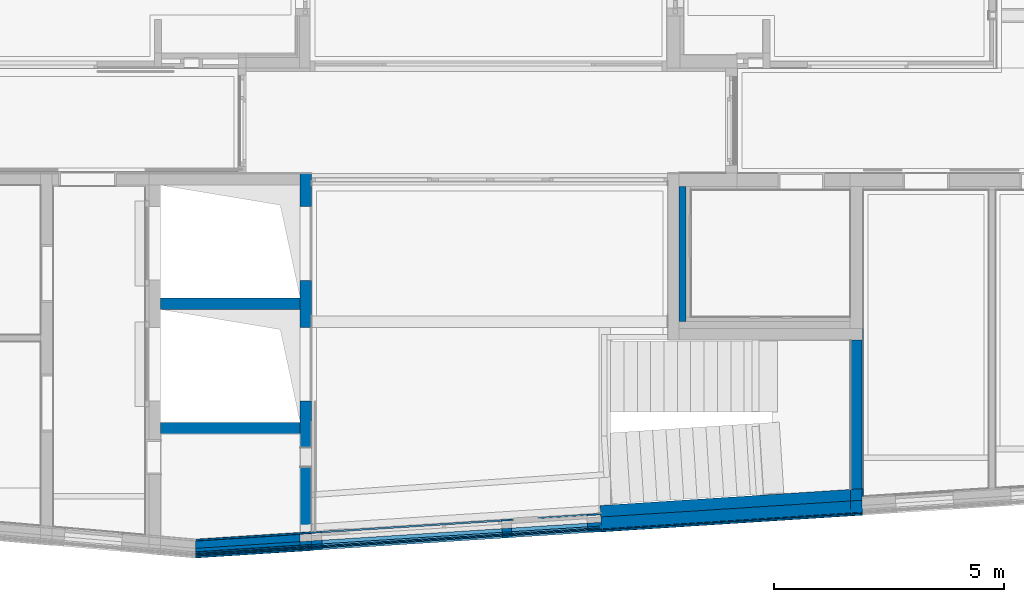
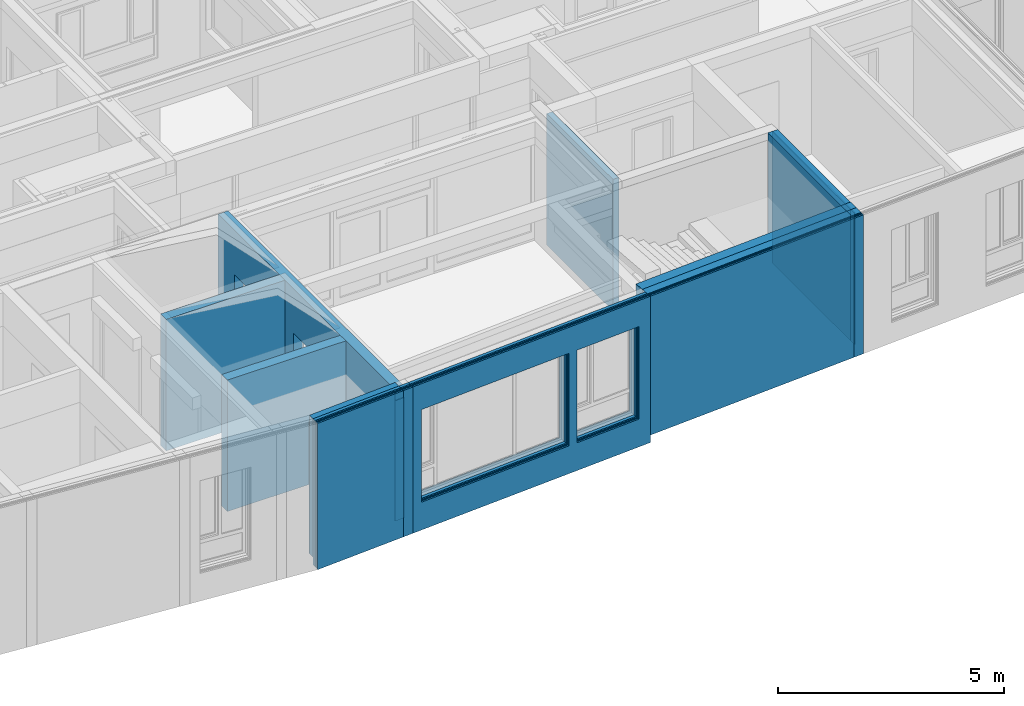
# One storey, part 24 of 222: 38 walls, 15 openings.
"""IFC4 building model written with IfcOpenShell, lengths in metres."""

from ifc_helpers import new_model, entity, si_unit, converted_unit, derived_unit, frame, frame_2d, origin, origin_with_axes, place, context, subcontext, project, spatial, polyline, rectangle, outline, extrude, clip, bounded_halfspace, material, element, save


model = new_model("IFC4")

# Units and contexts
model_context = context("Model", 3, precision=1e-05, world=origin())
body_context = subcontext(model_context, "Body", "Model", "MODEL_VIEW")
ifc_project = project(units=[si_unit("LENGTHUNIT", "METRE"), si_unit("AREAUNIT", "SQUARE_METRE"), si_unit("VOLUMEUNIT", "CUBIC_METRE"), si_unit("MASSUNIT", "GRAM", prefix="KILO"), converted_unit("PLANEANGLEUNIT", "DEGREE", entity("IfcPlaneAngleMeasure", 0.0174532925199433), si_unit("PLANEANGLEUNIT", "RADIAN"), dimensions=[0, 0, 0, 0, 0, 0, 0]), derived_unit("THERMALTRANSMITTANCEUNIT", [(si_unit("POWERUNIT", "WATT"), 1), (si_unit("THERMODYNAMICTEMPERATUREUNIT", "KELVIN"), -1), (si_unit("LENGTHUNIT", "METRE"), -2)]), derived_unit("VOLUMETRICFLOWRATEUNIT", [(si_unit("LENGTHUNIT", "METRE"), 3), (converted_unit("TIMEUNIT", "hour", entity("IfcTimeMeasure", 3600.0), si_unit("TIMEUNIT", "SECOND"), dimensions=[0, 0, 1, 0, 0, 0, 0]), -1), (si_unit("LENGTHUNIT", "METRE"), -1)])], contexts=[model_context])

# Site, building, storey
site_placement = place(None, origin())
site = spatial("IfcSite", under=ifc_project, at=site_placement, Name="Psychiatrie Neubau Wunstorf", CompositionType="ELEMENT")
building_placement = place(site_placement, origin())
building = spatial("IfcBuilding", under=site, at=building_placement, Name="Neubau H2 Stationsgebäude", CompositionType="ELEMENT")
storey_placement = place(building_placement, frame((0.0, 0.0, 3.6)))
storey = spatial("IfcBuildingStorey", under=building, at=storey_placement, Name="H2 Ebene +1", CompositionType="ELEMENT", Elevation=3.6)

# Walls
ifc_material_1 = material(Name="WA-STB")
wall_1_placement = place(storey_placement, frame((62.249793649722, -6.33037734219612, 0.0), z_axis=(0.0, 0.0, 1.0), x_axis=(-0.997944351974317, -0.0640864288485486, 0.0)))
element("IfcWall", 1, at=wall_1_placement, inside=storey, material=ifc_material_1, context=body_context, shape_type="SweptSolid", body=[
    extrude(outline(polyline([(-5.46534169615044, -0.248974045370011), (-0.0159887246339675, -0.248974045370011), (-0.0159760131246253, 0.00102595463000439), (-5.44928708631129, 0.00102595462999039), (-5.46534169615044, -0.248974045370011)])), frame((5.46534169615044, 0.248974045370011, 0.0), z_axis=(0.0, 0.0, 1.0), x_axis=(1.0, 0.0, 0.0)), (0.0, 0.0, 1.0), 3.75),
])
ifc_material_2 = material(Name="WA-DL")
wall_2_placement = place(storey_placement, frame((62.249793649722, -6.58089231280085, 0.0), z_axis=(0.0, 0.0, 1.0), x_axis=(-0.997944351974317, -0.0640864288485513, 0.0)))
element("IfcWall", 2, at=wall_2_placement, inside=storey, material=ifc_material_2, context=body_context, shape_type="SweptSolid", body=[
    extrude(outline(polyline([(-5.44674160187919, -0.209138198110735), (-0.0134305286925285, -0.209138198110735), (-0.0134198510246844, 0.000861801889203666), (-5.4332557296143, 0.000861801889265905), (-5.44674160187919, -0.209138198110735)])), frame((5.44674160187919, 0.209138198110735, 0.0), z_axis=(0.0, 0.0, 1.0), x_axis=(1.0, 0.0, 0.0)), (0.0, 0.0, 1.0), 3.75),
])
ifc_material_3 = material(Name="WA-LB")
wall_3_placement = place(storey_placement, frame((62.249793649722, -6.79132488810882, 0.0), z_axis=(0.0, 0.0, 1.0), x_axis=(-0.997944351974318, -0.0640864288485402, 0.0)))
element("IfcWall", 3, at=wall_3_placement, inside=storey, material=ifc_material_3, context=body_context, shape_type="SweptSolid", body=[
    extrude(outline(polyline([(-5.42117893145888, -0.0209138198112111), (-0.00134305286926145, -0.0209138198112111), (-0.00134198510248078, 8.61801889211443e-05), (-5.41983034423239, 8.61801887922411e-05), (-5.42117893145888, -0.0209138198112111)])), frame((5.42117893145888, 0.0209138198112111, 0.0), z_axis=(0.0, 0.0, 1.0), x_axis=(1.0, 0.0, 0.0)), (0.0, 0.0, 1.0), 3.75),
])
ifc_material_4 = material(Name="WA-KL")
wall_4_placement = place(storey_placement, frame((62.249793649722, -6.81236814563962, 0.0), z_axis=(0.0, 0.0, 1.0), x_axis=(-0.997944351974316, -0.0640864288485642, 0.0)))
element("IfcWall", 4, at=wall_4_placement, inside=storey, material=ifc_material_4, context=body_context, shape_type="SweptSolid", body=[
    extrude(outline(polyline([(-5.42002327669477, -0.0239015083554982), (-0.00153491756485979, -0.0239015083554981), (-0.00153369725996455, 9.84916444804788e-05), (-5.41848203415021, 9.84916445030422e-05), (-5.42002327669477, -0.0239015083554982)])), frame((5.42002327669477, 0.0239015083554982, 0.0), z_axis=(0.0, 0.0, 1.0), x_axis=(1.0, 0.0, 0.0)), (0.0, 0.0, 1.0), 3.75),
])
ifc_material_5 = material(Name="WA-TL")
wall_5_placement = place(storey_placement, frame((62.249793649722, -6.83641758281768, 0.0), z_axis=(0.0, 0.0, 1.0), x_axis=(-0.997944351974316, -0.0640864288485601, 0.0)))
element("IfcWall", 5, at=wall_5_placement, inside=storey, material=ifc_material_5, context=body_context, shape_type="SweptSolid", body=[
    extrude(outline(polyline([(-5.4184832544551, -0.0239015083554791), (-0.00153491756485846, -0.0239015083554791), (-0.00153369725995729, 9.84916444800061e-05), (-5.41694201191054, 9.84916445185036e-05), (-5.4184832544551, -0.0239015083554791)])), frame((5.4184832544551, 0.0239015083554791, 0.0), z_axis=(0.0, 0.0, 1.0), x_axis=(1.0, 0.0, 0.0)), (0.0, 0.0, 1.0), 3.75),
])
ifc_material_6 = material(Name="WA-HS")
wall_6_placement = place(storey_placement, frame((62.249793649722, -6.86046701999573, 0.0), z_axis=(0.0, 0.0, 1.0), x_axis=(-0.997944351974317, -0.064086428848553, 0.0)))
element("IfcWall", 6, at=wall_6_placement, inside=storey, material=ifc_material_6, context=body_context, shape_type="SweptSolid", body=[
    extrude(outline(polyline([(-5.41809442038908, -0.0418276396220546), (-0.00268610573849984, -0.0418276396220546), (-0.00268397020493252, 0.000172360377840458), (-5.4153972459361, 0.000172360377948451), (-5.41809442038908, -0.0418276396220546)])), frame((5.41809442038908, 0.0418276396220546, 0.0), z_axis=(0.0, 0.0, 1.0), x_axis=(1.0, 0.0, 0.0)), (0.0, 0.0, 1.0), 3.75),
])
ifc_material_7 = material(Name="WA-STB")
wall_7_placement = place(storey_placement, frame((62.499793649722, -6.31449858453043, 0.0), z_axis=(0.0, 0.0, 1.0), x_axis=(-0.997944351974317, -0.0640864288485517, 0.0)))
element("IfcWall", 7, at=wall_7_placement, inside=storey, material=ifc_material_7, context=body_context, shape_type="SweptSolid", body=[
    extrude(outline(polyline([(-0.266569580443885, -0.25), (-0.0160546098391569, -0.25), (0.0, 0.0), (-0.250514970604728, 0.0), (-0.266569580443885, -0.25)])), frame((0.266569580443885, 0.25, 0.0), z_axis=(0.0, 0.0, 1.0), x_axis=(1.0, 0.0, 0.0)), (0.0, 0.0, 1.0), 3.75),
])
ifc_material_8 = material(Name="WA-DL")
wall_8_placement = place(storey_placement, frame((62.499793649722, -6.56501355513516, 0.0), z_axis=(0.0, 0.0, 1.0), x_axis=(-0.997944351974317, -0.0640864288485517, 0.0)))
element("IfcWall", 8, at=wall_8_placement, inside=storey, material=ifc_material_8, context=body_context, shape_type="SweptSolid", body=[
    extrude(outline(polyline([(-0.264000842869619, -0.209999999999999), (-0.0134858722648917, -0.209999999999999), (0.0, 0.0), (-0.250514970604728, 0.0), (-0.264000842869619, -0.209999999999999)])), frame((0.264000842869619, 0.209999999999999, 0.0), z_axis=(0.0, 0.0, 1.0), x_axis=(1.0, 0.0, 0.0)), (0.0, 0.0, 1.0), 3.75),
])
ifc_material_9 = material(Name="WA-LB")
wall_9_placement = place(storey_placement, frame((62.499793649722, -6.77544613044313, 0.0), z_axis=(0.0, 0.0, 1.0), x_axis=(-0.997944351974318, -0.0640864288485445, 0.0)))
element("IfcWall", 9, at=wall_9_placement, inside=storey, material=ifc_material_9, context=body_context, shape_type="SweptSolid", body=[
    extrude(outline(polyline([(-0.251863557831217, -0.0210000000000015), (-0.00134858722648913, -0.0210000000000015), (0.0, 0.0), (-0.250514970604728, 0.0), (-0.251863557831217, -0.0210000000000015)])), frame((0.251863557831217, 0.0210000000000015, 0.0), z_axis=(0.0, 0.0, 1.0), x_axis=(1.0, 0.0, 0.0)), (0.0, 0.0, 1.0), 3.75),
])
ifc_material_10 = material(Name="WA-KL")
wall_10_placement = place(storey_placement, frame((62.499793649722, -6.79648938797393, 0.0), z_axis=(0.0, 0.0, 1.0), x_axis=(-0.997944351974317, -0.0640864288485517, 0.0)))
element("IfcWall", 10, at=wall_10_placement, inside=storey, material=ifc_material_10, context=body_context, shape_type="SweptSolid", body=[
    extrude(outline(polyline([(-0.252056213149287, -0.0240000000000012), (-0.00154124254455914, -0.0240000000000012), (0.0, 0.0), (-0.250514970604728, 0.0), (-0.252056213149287, -0.0240000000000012)])), frame((0.252056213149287, 0.0240000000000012, 0.0), z_axis=(0.0, 0.0, 1.0), x_axis=(1.0, 0.0, 0.0)), (0.0, 0.0, 1.0), 3.75),
])
ifc_material_11 = material(Name="WA-TL")
wall_11_placement = place(storey_placement, frame((62.499793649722, -6.82053882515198, 0.0), z_axis=(0.0, 0.0, 1.0), x_axis=(-0.997944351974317, -0.0640864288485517, 0.0)))
element("IfcWall", 11, at=wall_11_placement, inside=storey, material=ifc_material_11, context=body_context, shape_type="SweptSolid", body=[
    extrude(outline(polyline([(-0.252056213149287, -0.0239999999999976), (-0.00154124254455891, -0.0239999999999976), (0.0, 0.0), (-0.250514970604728, 0.0), (-0.252056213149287, -0.0239999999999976)])), frame((0.252056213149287, 0.0239999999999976, 0.0), z_axis=(0.0, 0.0, 1.0), x_axis=(1.0, 0.0, 0.0)), (0.0, 0.0, 1.0), 3.75),
])
ifc_material_12 = material(Name="WA-HS")
wall_12_placement = place(storey_placement, frame((62.499793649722, -6.84458826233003, 0.0), z_axis=(0.0, 0.0, 1.0), x_axis=(-0.997944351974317, -0.0640864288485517, 0.0)))
element("IfcWall", 12, at=wall_12_placement, inside=storey, material=ifc_material_12, context=body_context, shape_type="SweptSolid", body=[
    extrude(outline(polyline([(-0.253212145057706, -0.0419999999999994), (-0.00269717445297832, -0.0419999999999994), (0.0, 0.0), (-0.250514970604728, 0.0), (-0.253212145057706, -0.0419999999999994)])), frame((0.253212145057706, 0.0419999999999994, 0.0), z_axis=(0.0, 0.0, 1.0), x_axis=(1.0, 0.0, 0.0)), (0.0, 0.0, 1.0), 3.75),
])
ifc_material_13 = material(Name="WA-LB")
wall_13_placement = place(storey_placement, frame((50.3000000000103, -7.26712256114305, 0.0), z_axis=(0.0, 0.0, 1.0), x_axis=(-0.997944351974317, -0.0640864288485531, 0.0)))
element("IfcWall", 13, at=wall_13_placement, inside=storey, material=ifc_material_13, context=body_context, shape_type="SweptSolid", body=[
    extrude(outline(polyline([(-2.27676656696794, -0.0360000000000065), (-0.00273481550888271, -0.0360000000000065), (0.0, 0.0), (-2.2744547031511, 0.0), (-2.27676656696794, -0.0360000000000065)])), frame((2.27676656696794, 0.0360000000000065, 0.0), z_axis=(0.0, 0.0, 1.0), x_axis=(1.0, 0.0, 0.0)), (0.0, 0.0, 1.0), 3.55),
])
ifc_material_14 = material(Name="WA-HD")
wall_14_placement = place(storey_placement, frame((50.3000000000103, -7.30319671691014, 0.0), z_axis=(0.0, 0.0, 1.0), x_axis=(-0.997944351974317, -0.0640864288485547, 0.0)))
element("IfcWall", 14, at=wall_14_placement, inside=storey, material=ifc_material_14, context=body_context, shape_type="SweptSolid", body=[
    extrude(outline(polyline([(-2.28660943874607, -0.159999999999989), (-0.0121547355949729, -0.159999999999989), (0.0, 0.0), (-2.27633448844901, 0.0), (-2.28660943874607, -0.159999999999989)])), frame((2.28660943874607, 0.159999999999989, 0.0), z_axis=(0.0, 0.0, 1.0), x_axis=(1.0, 0.0, 0.0)), (0.0, 0.0, 1.0), 3.75),
])
ifc_material_15 = material(Name="WA-DL")
wall_15_placement = place(storey_placement, frame((50.3000000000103, -7.46352629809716, -0.2), z_axis=(0.0, 0.0, 1.0), x_axis=(-0.997944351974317, -0.064086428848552, 0.0)))
element("IfcWall", 15, at=wall_15_placement, inside=storey, material=ifc_material_15, context=body_context, shape_type="SweptSolid", body=[
    extrude(outline(polyline([(-2.28241185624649, -0.0800000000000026), (-0.00607736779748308, -0.0800000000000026), (0.0, 0.0), (-2.27727438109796, 0.0), (-2.28241185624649, -0.0800000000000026)])), frame((2.28241185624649, 0.0800000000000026, 0.0), z_axis=(0.0, 0.0, 1.0), x_axis=(1.0, 0.0, 0.0)), (0.0, 0.0, 1.0), 3.95),
])
ifc_material_16 = material(Name="WA-LB")
wall_16_placement = place(storey_placement, frame((50.3000000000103, -7.54369108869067, -0.2), z_axis=(0.0, 0.0, 1.0), x_axis=(-0.997944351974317, -0.064086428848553, 0.0)))
element("IfcWall", 16, at=wall_16_placement, inside=storey, material=ifc_material_16, context=body_context, shape_type="SweptSolid", body=[
    extrude(outline(polyline([(-2.28000919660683, -0.0359999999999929), (-0.00273481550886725, -0.0359999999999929), (0.0, 0.0), (-2.27769733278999, 0.0), (-2.28000919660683, -0.0359999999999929)])), frame((2.28000919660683, 0.0359999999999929, 0.0), z_axis=(0.0, 0.0, 1.0), x_axis=(1.0, 0.0, 0.0)), (0.0, 0.0, 1.0), 3.95),
])
ifc_material_17 = material(Name="WA-KL")
wall_17_placement = place(storey_placement, frame((50.3000000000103, -7.57976524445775, -0.2), z_axis=(0.0, 0.0, 1.0), x_axis=(-0.997944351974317, -0.0640864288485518, 0.0)))
element("IfcWall", 17, at=wall_17_placement, inside=storey, material=ifc_material_17, context=body_context, shape_type="SweptSolid", body=[
    extrude(outline(polyline([(-2.27952054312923, -0.024000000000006), (-0.00182321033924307, -0.024000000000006), (0.0, 0.0), (-2.27797930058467, 0.0), (-2.27952054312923, -0.024000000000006)])), frame((2.27952054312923, 0.024000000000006, 0.0), z_axis=(0.0, 0.0, 1.0), x_axis=(1.0, 0.0, 0.0)), (0.0, 0.0, 1.0), 3.95),
])
ifc_material_18 = material(Name="WA-TL")
wall_18_placement = place(storey_placement, frame((50.3000000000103, -7.6038146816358, -0.2), z_axis=(0.0, 0.0, 1.0), x_axis=(-0.997944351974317, -0.0640864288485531, 0.0)))
element("IfcWall", 18, at=wall_18_placement, inside=storey, material=ifc_material_18, context=body_context, shape_type="SweptSolid", body=[
    extrude(outline(polyline([(-2.27980251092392, -0.0239999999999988), (-0.00182321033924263, -0.0239999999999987), (0.0, 0.0), (-2.27826126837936, 0.0), (-2.27980251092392, -0.0239999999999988)])), frame((2.27980251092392, 0.0239999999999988, 0.0), z_axis=(0.0, 0.0, 1.0), x_axis=(1.0, 0.0, 0.0)), (0.0, 0.0, 1.0), 3.95),
])
ifc_material_19 = material(Name="WA-HS")
wall_19_placement = place(storey_placement, frame((50.3000000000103, -7.62786411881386, -0.2), z_axis=(0.0, 0.0, 1.0), x_axis=(-0.997944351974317, -0.0640864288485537, 0.0)))
element("IfcWall", 19, at=wall_19_placement, inside=storey, material=ifc_material_19, context=body_context, shape_type="SweptSolid", body=[
    extrude(outline(polyline([(-2.28145188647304, -0.0420000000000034), (-0.00319061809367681, -0.0420000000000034), (0.0, 0.0), (-2.27875471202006, 0.0), (-2.28145188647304, -0.0420000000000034)])), frame((2.28145188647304, 0.0420000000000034, 0.0), z_axis=(0.0, 0.0, 1.0), x_axis=(1.0, 0.0, 0.0)), (0.0, 0.0, 1.0), 3.95),
])

# Wall, openings
ifc_material_20 = material(Name="WA-LB")
wall_20_placement = place(storey_placement, frame((56.822464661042, -6.84826005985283, 0.0), z_axis=(0.0, 0.0, 1.0), x_axis=(-0.997944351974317, -0.0640864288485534, 0.0)))
wall_20 = element("IfcWall", 20, at=wall_20_placement, inside=storey, material=ifc_material_20, context=body_context, shape_type="SweptSolid", body=[
    extrude(outline(polyline([(-6.28769706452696, -0.0360000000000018), (-0.00231186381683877, -0.0360000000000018), (0.0, 0.0), (-6.28769523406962, 0.0), (-6.28769706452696, -0.0360000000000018)])), frame((6.28769706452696, 0.0360000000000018, 0.0), z_axis=(0.0, 0.0, 1.0), x_axis=(1.0, 0.0, 0.0)), (0.0, 0.0, 1.0), 3.25),
])
opening_1_placement = place(wall_20_placement, frame((1.94960291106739, 0.0359999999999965, 0.55), z_axis=(-5.68434188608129e-14, -1.0, 0.0), x_axis=(0.0, 0.0, 1.0)))
element("IfcOpeningElement", 21, at=opening_1_placement, cuts=wall_20, Name="Fensteröffnung", ObjectType="Opening", context=body_context, shape_type="SweptSolid", body=[
    extrude(outline(polyline([(2.5, 1.64999999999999), (2.5, 0.0), (0.0, 0.0), (0.0, 1.64999999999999), (2.5, 1.64999999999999)])), origin_with_axes(), (0.0, 0.0, 1.0), 0.0359999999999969),
])
opening_2_placement = place(wall_20_placement, frame((2.15538520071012, 0.0, 0.55), z_axis=(6.31593542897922e-14, 1.0, 0.0), x_axis=(0.0, 0.0, 1.0)))
element("IfcOpeningElement", 22, at=opening_2_placement, cuts=wall_20, Name="Fensteröffnung", ObjectType="Opening", context=body_context, shape_type="SweptSolid", body=[
    extrude(outline(polyline([(2.5, 3.92257788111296), (2.5, 0.0), (0.0, 0.0), (0.0, 3.92257788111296), (2.5, 3.92257788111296)])), origin_with_axes(), (0.0, 0.0, 1.0), 0.0359999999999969),
])

ifc_material_21 = material(Name="WA-DL")
wall_21_placement = place(storey_placement, frame((56.8350156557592, -7.04385779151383, -0.2), z_axis=(0.0, 0.0, 1.0), x_axis=(-0.997944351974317, -0.0640864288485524, 0.0)))
wall_21 = element("IfcWall", 23, at=wall_21_placement, inside=storey, material=ifc_material_21, context=body_context, shape_type="SweptSolid", body=[
    extrude(outline(polyline([(-6.30309952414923, -0.0800000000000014), (-0.00513747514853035, -0.0800000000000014), (0.0, 0.0), (-6.30309545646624, 0.0), (-6.30309952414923, -0.0800000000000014)])), frame((6.30309952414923, 0.0800000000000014, 0.0), z_axis=(0.0, 0.0, 1.0), x_axis=(1.0, 0.0, 0.0)), (0.0, 0.0, 1.0), 3.95),
])
opening_3_placement = place(wall_21_placement, frame((1.94959294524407, 0.0799999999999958, 0.75), z_axis=(-1.98951966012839e-14, -1.0, 0.0), x_axis=(0.0, 0.0, 1.0)))
element("IfcOpeningElement", 24, at=opening_3_placement, cuts=wall_21, Name="Fensteröffnung", ObjectType="Opening", context=body_context, shape_type="SweptSolid", body=[
    extrude(outline(polyline([(2.5, 1.64999999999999), (2.5, 0.0), (0.0, 0.0), (0.0, 1.64999999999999), (2.5, 1.64999999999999)])), origin_with_axes(), (0.0, 0.0, 1.0), 0.0799999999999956),
])
opening_4_placement = place(wall_21_placement, frame((2.15537523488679, 0.0, 0.75), z_axis=(2.27373675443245e-14, 1.0, 0.0), x_axis=(0.0, 0.0, 1.0)))
element("IfcOpeningElement", 25, at=opening_4_placement, cuts=wall_21, Name="Fensteröffnung", ObjectType="Opening", context=body_context, shape_type="SweptSolid", body=[
    extrude(outline(polyline([(2.5, 3.92257788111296), (2.5, 0.0), (0.0, 0.0), (0.0, 3.92257788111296), (2.5, 3.92257788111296)])), origin_with_axes(), (0.0, 0.0, 1.0), 0.0799999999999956),
])

ifc_material_22 = material(Name="WA-LB")
wall_22_placement = place(storey_placement, frame((56.8401385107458, -7.12369360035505, -0.2), z_axis=(0.0, 0.0, 1.0), x_axis=(-0.997944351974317, -0.0640864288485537, 0.0)))
wall_22 = element("IfcWall", 26, at=wall_22_placement, inside=storey, material=ifc_material_22, context=body_context, shape_type="SweptSolid", body=[
    extrude(outline(polyline([(-6.30540732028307, -0.0359999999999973), (-0.00231186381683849, -0.0359999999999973), (0.0, 0.0), (-6.30540548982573, 0.0), (-6.30540732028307, -0.0359999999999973)])), frame((6.30540732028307, 0.0359999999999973, 0.0), z_axis=(0.0, 0.0, 1.0), x_axis=(1.0, 0.0, 0.0)), (0.0, 0.0, 1.0), 3.95),
])
opening_5_placement = place(wall_22_placement, frame((1.94958887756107, 0.0360000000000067, 0.75), z_axis=(-7.57912251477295e-14, -1.0, 0.0), x_axis=(0.0, 0.0, 1.0)))
element("IfcOpeningElement", 27, at=opening_5_placement, cuts=wall_22, Name="Fensteröffnung", ObjectType="Opening", context=body_context, shape_type="SweptSolid", body=[
    extrude(outline(polyline([(2.5, 1.64999999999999), (2.5, 0.0), (0.0, 0.0), (0.0, 1.64999999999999), (2.5, 1.64999999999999)])), origin_with_axes(), (0.0, 0.0, 1.0), 0.0360000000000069),
])
opening_6_placement = place(wall_22_placement, frame((2.1553711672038, 0.0, 0.75), z_axis=(7.57912251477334e-14, 1.0, 0.0), x_axis=(0.0, 0.0, 1.0)))
element("IfcOpeningElement", 28, at=opening_6_placement, cuts=wall_22, Name="Fensteröffnung", ObjectType="Opening", context=body_context, shape_type="SweptSolid", body=[
    extrude(outline(polyline([(2.5, 3.92257788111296), (2.5, 0.0), (0.0, 0.0), (0.0, 3.92257788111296), (2.5, 3.92257788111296)])), origin_with_axes(), (0.0, 0.0, 1.0), 0.0360000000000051),
])

ifc_material_23 = material(Name="WA-KL")
wall_23_placement = place(storey_placement, frame((56.8424437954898, -7.15961971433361, -0.2), z_axis=(0.0, 0.0, 1.0), x_axis=(-0.997944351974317, -0.0640864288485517, 0.0)))
wall_23 = element("IfcWall", 29, at=wall_23_placement, inside=storey, material=ifc_material_23, context=body_context, shape_type="SweptSolid", body=[
    extrude(outline(polyline([(-6.30694673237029, -0.0240000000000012), (-0.00154124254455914, -0.0240000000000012), (0.0, 0.0), (-6.30694551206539, 0.0), (-6.30694673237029, -0.0240000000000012)])), frame((6.30694673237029, 0.0240000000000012, 0.0), z_axis=(0.0, 0.0, 1.0), x_axis=(1.0, 0.0, 0.0)), (0.0, 0.0, 1.0), 3.95),
])
opening_7_placement = place(wall_23_placement, frame((1.94958704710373, 0.0239999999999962, 0.75), z_axis=(5.68434188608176e-14, -1.0, 0.0), x_axis=(0.0, 0.0, 1.0)))
element("IfcOpeningElement", 30, at=opening_7_placement, cuts=wall_23, Name="Fensteröffnung", ObjectType="Opening", context=body_context, shape_type="SweptSolid", body=[
    extrude(outline(polyline([(2.5, 1.65000000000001), (2.5, 0.0), (0.0, 0.0), (0.0, 1.65000000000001), (2.5, 1.65000000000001)])), origin_with_axes(), (0.0, 0.0, 1.0), 0.023999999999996),
])
opening_8_placement = place(wall_23_placement, frame((2.15536933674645, 0.0, 0.75), z_axis=(-3.78956125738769e-14, 1.0, 0.0), x_axis=(0.0, 0.0, 1.0)))
element("IfcOpeningElement", 31, at=opening_8_placement, cuts=wall_23, Name="Fensteröffnung", ObjectType="Opening", context=body_context, shape_type="SweptSolid", body=[
    extrude(outline(polyline([(2.5, 3.92257788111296), (2.5, 0.0), (0.0, 0.0), (0.0, 3.92257788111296), (2.5, 3.92257788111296)])), origin_with_axes(), (0.0, 0.0, 1.0), 0.0239999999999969),
])

ifc_material_24 = material(Name="WA-TL")
wall_24_placement = place(storey_placement, frame((56.8439806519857, -7.18357045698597, -0.2), z_axis=(0.0, 0.0, 1.0), x_axis=(-0.997944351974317, -0.0640864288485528, 0.0)))
wall_24 = element("IfcWall", 32, at=wall_24_placement, inside=storey, material=ifc_material_24, context=body_context, shape_type="SweptSolid", body=[
    extrude(outline(polyline([(-6.30848675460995, -0.0239999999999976), (-0.00154124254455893, -0.0239999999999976), (0.0, 0.0), (-6.30848553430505, 0.0), (-6.30848675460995, -0.0239999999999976)])), frame((6.30848675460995, 0.0239999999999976, 0.0), z_axis=(0.0, 0.0, 1.0), x_axis=(1.0, 0.0, 0.0)), (0.0, 0.0, 1.0), 3.95),
])
opening_9_placement = place(wall_24_placement, frame((1.94958582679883, 0.0239999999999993, 0.75), z_axis=(4.73695157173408e-14, -1.0, 0.0), x_axis=(0.0, 0.0, 1.0)))
element("IfcOpeningElement", 33, at=opening_9_placement, cuts=wall_24, Name="Fensteröffnung", ObjectType="Opening", context=body_context, shape_type="SweptSolid", body=[
    extrude(outline(polyline([(2.5, 1.65000000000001), (2.5, 0.0), (0.0, 0.0), (0.0, 1.65000000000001), (2.5, 1.65000000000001)])), origin_with_axes(), (0.0, 0.0, 1.0), 0.0239999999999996),
])
opening_10_placement = place(wall_24_placement, frame((2.15536811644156, 0.0, 0.75), z_axis=(-5.6843418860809e-14, 1.0, 0.0), x_axis=(0.0, 0.0, 1.0)))
element("IfcOpeningElement", 34, at=opening_10_placement, cuts=wall_24, Name="Fensteröffnung", ObjectType="Opening", context=body_context, shape_type="SweptSolid", body=[
    extrude(outline(polyline([(2.5, 3.92257788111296), (2.5, 0.0), (0.0, 0.0), (0.0, 3.92257788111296), (2.5, 3.92257788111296)])), origin_with_axes(), (0.0, 0.0, 1.0), 0.0239999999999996),
])

ifc_material_25 = material(Name="WA-HS")
wall_25_placement = place(storey_placement, frame((56.8455175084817, -7.20752119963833, -0.2), z_axis=(0.0, 0.0, 1.0), x_axis=(-0.997944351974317, -0.0640864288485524, 0.0)))
wall_25 = element("IfcWall", 35, at=wall_25_placement, inside=storey, material=ifc_material_25, context=body_context, shape_type="SweptSolid", body=[
    extrude(outline(polyline([(-6.3111827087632, -0.0420000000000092), (-0.00269717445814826, -0.0420000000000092), (0.0, 0.0), (-6.31118057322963, 0.0), (-6.3111827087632, -0.0420000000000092)])), frame((6.3111827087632, 0.0420000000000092, 0.0), z_axis=(0.0, 0.0, 1.0), x_axis=(1.0, 0.0, 0.0)), (0.0, 0.0, 1.0), 3.95),
])
opening_11_placement = place(wall_25_placement, frame((1.94958460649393, 0.0420000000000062, 0.75), z_axis=(7.03775662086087e-14, -1.0, 0.0), x_axis=(0.0, 0.0, 1.0)))
element("IfcOpeningElement", 36, at=opening_11_placement, cuts=wall_25, Name="Fensteröffnung", ObjectType="Opening", context=body_context, shape_type="SweptSolid", body=[
    extrude(outline(polyline([(2.5, 1.64999999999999), (2.5, 0.0), (0.0, 0.0), (0.0, 1.64999999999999), (2.5, 1.64999999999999)])), origin_with_axes(), (0.0, 0.0, 1.0), 0.0420000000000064),
])
opening_12_placement = place(wall_25_placement, frame((2.15536689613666, 0.0, 0.75), z_axis=(-6.49639072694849e-14, 1.0, 0.0), x_axis=(0.0, 0.0, 1.0)))
element("IfcOpeningElement", 37, at=opening_12_placement, cuts=wall_25, Name="Fensteröffnung", ObjectType="Opening", context=body_context, shape_type="SweptSolid", body=[
    extrude(outline(polyline([(2.5, 3.92257788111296), (2.5, 0.0), (0.0, 0.0), (0.0, 3.92257788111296), (2.5, 3.92257788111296)])), origin_with_axes(), (0.0, 0.0, 1.0), 0.0420000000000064),
])

# Walls
ifc_material_26 = material(Name="WA-LB")
wall_26_placement = place(storey_placement, frame((50.5500000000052, -7.25106795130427, 0.0), z_axis=(0.0, 0.0, 1.0), x_axis=(-0.997944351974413, -0.0640864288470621, 0.0)))
element("IfcWall", 38, at=wall_26_placement, inside=storey, material=ifc_material_26, Name="2x Gipsfaserplatte", context=body_context, shape_type="Clipping", body=[
    clip(extrude(outline(polyline([(-0.252826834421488, -0.0360000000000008), (-0.00231186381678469, -0.0360000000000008), (0.0, 0.0), (-0.250514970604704, 0.0), (-0.252826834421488, -0.0360000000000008)])), frame((0.252826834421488, 0.0360000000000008, 0.0), z_axis=(0.0, 0.0, 1.0), x_axis=(1.0, 0.0, 0.0)), (0.0, 0.0, 1.0), 3.55), bounded_halfspace(frame((0.121512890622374, 0.0180000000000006, 3.25), z_axis=(0.0, 0.0, -1.0), x_axis=(-1.42964806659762e-12, 1.0, 0.0)), True, origin_with_axes(), polyline([(0.241869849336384, 0.0), (0.241869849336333, 0.0360000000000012), (0.00231186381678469, 0.0360000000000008), (0.0, 0.0), (0.241869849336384, 0.0)]))),
])
ifc_material_27 = material(Name="WA-DL")
wall_27_placement = place(storey_placement, frame((50.5500000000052, -7.44747168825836, -0.2), z_axis=(0.0, 0.0, 1.0), x_axis=(-0.997944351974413, -0.0640864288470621, 0.0)))
element("IfcWall", 39, at=wall_27_placement, inside=storey, material=ifc_material_27, Name="Staffel + Zwischendämmung", context=body_context, shape_type="SweptSolid", body=[
    extrude(outline(polyline([(-0.255652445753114, -0.08), (-0.0051374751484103, -0.08), (0.0, 0.0), (-0.250514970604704, 0.0), (-0.255652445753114, -0.08)])), frame((0.255652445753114, 0.08, 0.0), z_axis=(0.0, 0.0, 1.0), x_axis=(1.0, 0.0, 0.0)), (0.0, 0.0, 1.0), 3.95),
])
ifc_material_28 = material(Name="WA-LB")
wall_28_placement = place(storey_placement, frame((50.5500000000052, -7.52763647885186, -0.2), z_axis=(0.0, 0.0, 1.0), x_axis=(-0.997944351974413, -0.0640864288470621, 0.0)))
element("IfcWall", 40, at=wall_28_placement, inside=storey, material=ifc_material_28, context=body_context, shape_type="SweptSolid", body=[
    extrude(outline(polyline([(-0.252826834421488, -0.0359999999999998), (-0.00231186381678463, -0.0359999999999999), (0.0, 0.0), (-0.250514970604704, 0.0), (-0.252826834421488, -0.0359999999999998)])), frame((0.252826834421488, 0.0359999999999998, 0.0), z_axis=(0.0, 0.0, 1.0), x_axis=(1.0, 0.0, 0.0)), (0.0, 0.0, 1.0), 3.95),
])
ifc_material_29 = material(Name="WA-KL")
wall_29_placement = place(storey_placement, frame((50.5500000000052, -7.56371063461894, -0.2), z_axis=(0.0, 0.0, 1.0), x_axis=(-0.997944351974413, -0.0640864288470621, 0.0)))
element("IfcWall", 41, at=wall_29_placement, inside=storey, material=ifc_material_29, Name="Konterlattung", context=body_context, shape_type="SweptSolid", body=[
    extrude(outline(polyline([(-0.252056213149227, -0.0239999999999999), (-0.00154124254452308, -0.0239999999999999), (0.0, 0.0), (-0.250514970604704, 0.0), (-0.252056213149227, -0.0239999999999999)])), frame((0.252056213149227, 0.0239999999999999, 0.0), z_axis=(0.0, 0.0, 1.0), x_axis=(1.0, 0.0, 0.0)), (0.0, 0.0, 1.0), 3.95),
])
ifc_material_30 = material(Name="WA-TL")
wall_30_placement = place(storey_placement, frame((50.5500000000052, -7.58776007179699, -0.2), z_axis=(0.0, 0.0, 1.0), x_axis=(-0.997944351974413, -0.0640864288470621, 0.0)))
element("IfcWall", 42, at=wall_30_placement, inside=storey, material=ifc_material_30, Name="Traglattung", context=body_context, shape_type="SweptSolid", body=[
    extrude(outline(polyline([(-0.252056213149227, -0.0239999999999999), (-0.00154124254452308, -0.0239999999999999), (0.0, 0.0), (-0.250514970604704, 0.0), (-0.252056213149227, -0.0239999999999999)])), frame((0.252056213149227, 0.0239999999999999, 0.0), z_axis=(0.0, 0.0, 1.0), x_axis=(1.0, 0.0, 0.0)), (0.0, 0.0, 1.0), 3.95),
])
ifc_material_31 = material(Name="WA-HS")
wall_31_placement = place(storey_placement, frame((50.5500000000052, -7.61180950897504, -0.2), z_axis=(0.0, 0.0, 1.0), x_axis=(-0.997944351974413, -0.0640864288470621, 0.0)))
element("IfcWall", 43, at=wall_31_placement, inside=storey, material=ifc_material_31, Name="Holzschindel", context=body_context, shape_type="SweptSolid", body=[
    extrude(outline(polyline([(-0.253212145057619, -0.0420000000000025), (-0.00269717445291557, -0.0420000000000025), (0.0, 0.0), (-0.250514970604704, 0.0), (-0.253212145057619, -0.0420000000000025)])), frame((0.253212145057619, 0.0420000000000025, 0.0), z_axis=(0.0, 0.0, 1.0), x_axis=(1.0, 0.0, 0.0)), (0.0, 0.0, 1.0), 3.95),
])
ifc_material_32 = material(Name="WI-STB")
wall_32_placement = place(storey_placement, frame((47.2700048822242, -5.1250003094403, 0.0)))
element("IfcWall", 44, at=wall_32_placement, inside=storey, material=ifc_material_32, context=body_context, shape_type="SweptSolid", body=[
    extrude(rectangle(XDim=3.0299951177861, YDim=0.25, at=frame_2d((1.51499755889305, 0.125), x_axis=(1.0, 0.0))), origin_with_axes(), (0.0, 0.0, 1.0), 3.55),
])
ifc_material_33 = material(Name="WI-STB")
wall_33_placement = place(storey_placement, frame((47.2700048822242, -2.4250003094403, 0.0)))
element("IfcWall", 45, at=wall_33_placement, inside=storey, material=ifc_material_33, context=body_context, shape_type="SweptSolid", body=[
    extrude(rectangle(XDim=3.0299951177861, YDim=0.25, at=frame_2d((1.51499755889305, 0.125), x_axis=(1.0, 0.0))), origin_with_axes(), (0.0, 0.0, 1.0), 3.55),
])

# Wall, openings
ifc_material_34 = material(Name="WI-STB")
wall_34_placement = place(storey_placement, frame((50.5500000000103, -7.25106795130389, 0.0), z_axis=(0.0, 0.0, 1.0), x_axis=(0.0, 1.0, 0.0)))
wall_34 = element("IfcWall", 46, at=wall_34_placement, inside=storey, material=ifc_material_34, context=body_context, shape_type="SweptSolid", body=[
    extrude(outline(polyline([(0.0160546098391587, -0.25), (7.79212256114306, -0.25), (7.79212256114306, 0.0), (0.0, 0.0), (0.0160546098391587, -0.25)])), frame((-0.0160546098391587, 0.25, 0.0), z_axis=(0.0, 0.0, 1.0), x_axis=(1.0, 0.0, 0.0)), (0.0, 0.0, 1.0), 3.55),
])
opening_13_placement = place(wall_34_placement, frame((1.8269764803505, 0.25000000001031, 0.35), z_axis=(0.0, -1.0, 0.0), x_axis=(0.0, 0.0, 1.0)))
element("IfcOpeningElement", 47, at=opening_13_placement, cuts=wall_34, Name="Wandnische", ObjectType="Opening", context=body_context, shape_type="SweptSolid", body=[
    extrude(outline(polyline([(1.12, 0.42), (1.12, 0.0), (0.0, 0.0), (0.0, 0.42), (1.12, 0.42)])), origin_with_axes(), (0.0, 0.0, 1.0), 0.25),
])
opening_14_placement = place(wall_34_placement, frame((2.84107984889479, 0.0, 0.0), z_axis=(0.0, 1.0, 0.0), x_axis=(0.0, 0.0, 1.0)))
element("IfcOpeningElement", 48, at=opening_14_placement, cuts=wall_34, Name="Türöffnung", ObjectType="Opening", context=body_context, shape_type="SweptSolid", body=[
    extrude(outline(polyline([(2.35, 1.6), (2.35, 0.0), (0.0, 0.0), (0.0, 1.6), (2.35, 1.6)])), origin_with_axes(), (0.0, 0.0, 1.0), 0.25),
])
opening_15_placement = place(wall_34_placement, frame((5.46106764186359, 0.0, 0.0), z_axis=(0.0, 1.0, 0.0), x_axis=(0.0, 0.0, 1.0)))
element("IfcOpeningElement", 49, at=opening_15_placement, cuts=wall_34, Name="Türöffnung", ObjectType="Opening", context=body_context, shape_type="SweptSolid", body=[
    extrude(outline(polyline([(2.35, 1.6), (2.35, 0.0), (0.0, 0.0), (0.0, 1.6), (2.35, 1.6)])), origin_with_axes(), (0.0, 0.0, 1.0), 0.25),
])

# Walls
ifc_material_35 = material(Name="WI-LB")
wall_35_placement = place(storey_placement, frame((62.529793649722, -6.48193409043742, 0.0), z_axis=(0.0, 0.0, 1.0), x_axis=(0.0, 1.0, 0.0)))
element("IfcWall", 50, at=wall_35_placement, inside=storey, material=ifc_material_35, context=body_context, shape_type="SweptSolid", body=[
    extrude(outline(polyline([(0.00192655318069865, -0.03), (0.171288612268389, -0.03), (0.169362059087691, 0.0), (0.0, 0.0), (0.00192655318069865, -0.03)])), frame((-0.00192655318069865, 0.03, 0.0), z_axis=(0.0, 0.0, 1.0), x_axis=(1.0, 0.0, 0.0)), (0.0, 0.0, 1.0), 3.55),
])
ifc_material_36 = material(Name="Installationsraum")
wall_36_placement = place(storey_placement, frame((58.528000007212, 0.246002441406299, 0.0), z_axis=(0.0, 0.0, 1.0), x_axis=(0.0, -1.0, 0.0)))
element("IfcWall", 51, at=wall_36_placement, inside=storey, material=ifc_material_36, context=body_context, shape_type="SweptSolid", body=[
    extrude(rectangle(XDim=2.934493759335, YDim=0.15, at=frame_2d((1.4672468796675, 0.075), x_axis=(1.0, 0.0))), origin_with_axes(), (0.0, 0.0, 1.0), 3.55),
])
ifc_material_37 = material(Name="WI-LB")
wall_37_placement = place(storey_placement, frame((62.529793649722, -6.31257203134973, 0.0), z_axis=(0.0, 0.0, 1.0), x_axis=(0.0, 1.0, 0.0)))
element("IfcWall", 52, at=wall_37_placement, inside=storey, material=ifc_material_37, context=body_context, shape_type="SweptSolid", body=[
    extrude(outline(polyline([(0.00192655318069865, -0.03), (3.47600726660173, -0.03), (3.47600726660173, 0.0), (0.0, 0.0), (0.00192655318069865, -0.03)])), frame((-0.00192655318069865, 0.03, 0.0), z_axis=(0.0, 0.0, 1.0), x_axis=(1.0, 0.0, 0.0)), (0.0, 0.0, 1.0), 3.55),
])
ifc_material_38 = material(Name="WI-STB")
wall_38_placement = place(storey_placement, frame((62.499793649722, -6.31449858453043, 0.0), z_axis=(0.0, 0.0, 1.0), x_axis=(0.0, 1.0, 0.0)))
element("IfcWall", 53, at=wall_38_placement, inside=storey, material=ifc_material_38, context=body_context, shape_type="SweptSolid", body=[
    extrude(outline(polyline([(0.0160546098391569, -0.25), (3.24206187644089, -0.25), (3.24206187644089, 0.0), (0.0, 0.0), (0.0160546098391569, -0.25)])), frame((-0.0160546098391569, 0.25, 0.0), z_axis=(0.0, 0.0, 1.0), x_axis=(1.0, 0.0, 0.0)), (0.0, 0.0, 1.0), 3.75),
])

save(model, "model.ifc")
